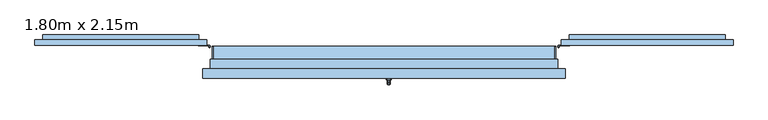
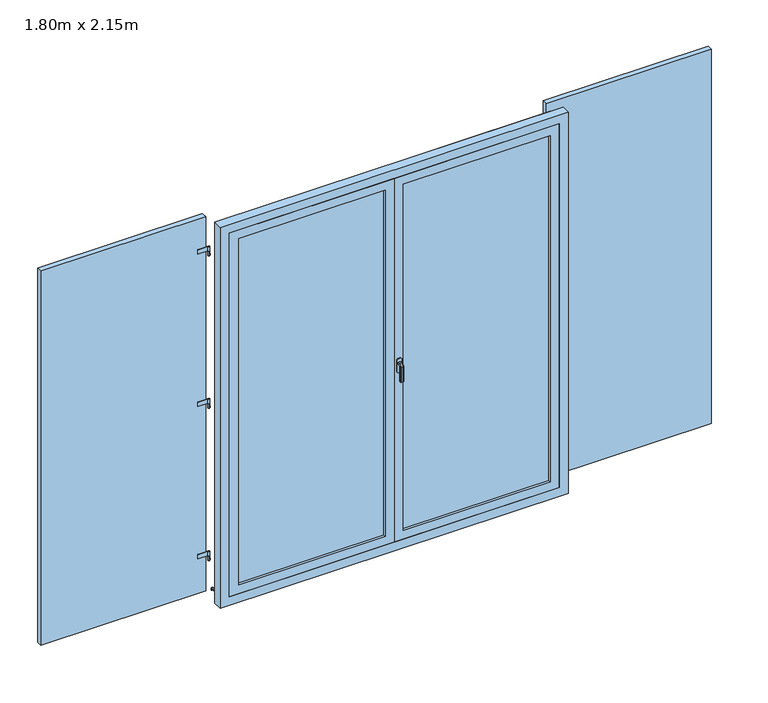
"""IFC4 building model written with IfcOpenShell, lengths in millimetres: window geometry, PF 2 Vantaux droits - Volets et petits bois : 1.80m x 2.15m."""

import ifcopenshell
import ifcopenshell.guid

model = None  # the IFC model being written
_history = None  # IfcOwnerHistory: only IFC2X3 demands one
_inside = {}  # id of a spatial element -> (the spatial element, [elements in it])
_under = {}  # id of a project, library or spatial element -> (it, [spatial elements below it])
_declared = {}  # id of a project -> (the project, [libraries it declares])
_typed = {}  # id of a type object -> (the type object, [elements of that type])
_made_of = {}  # id of a material, layer set ... -> (it, [elements and type objects made of it])


def new_model(schema):
    """Start an empty IFC model of exactly this schema.

    Asked for "IFC4X3", IfcOpenShell would pick the latest addendum, in which some entities
    have other attributes; the version numbers below select the first issue.
    IFC2X3 requires an IfcOwnerHistory on every rooted entity: one is made here for all.
    """
    global model, _history
    if schema == "IFC4X3":
        model = ifcopenshell.file(schema_version=(4, 3, 0, 0))
    else:
        model = ifcopenshell.file(schema=schema)
    _inside.clear()
    _under.clear()
    _declared.clear()
    _typed.clear()
    _made_of.clear()
    _history = None
    if model.schema == "IFC2X3":
        org = make("IfcOrganization", Name="unknown")
        user = make(
            "IfcPersonAndOrganization",
            ThePerson=make("IfcPerson", FamilyName="unknown"),
            TheOrganization=org,
        )
        app = make(
            "IfcApplication",
            ApplicationDeveloper=org,
            Version="unknown",
            ApplicationFullName="unknown",
            ApplicationIdentifier="unknown",
        )
        _history = make(
            "IfcOwnerHistory",
            OwningUser=user,
            OwningApplication=app,
            ChangeAction="ADDED",
            CreationDate=0,
        )
    return model


def make(cls, **values):
    """One entity of the class cls with the attributes given. An attribute that is None is left unset."""
    return model.create_entity(
        cls, **{name: value for name, value in values.items() if value is not None}
    )


def rooted(cls, **values):
    """An entity with a GlobalId (a new one), such as an element, a storey or a relation."""
    return make(cls, GlobalId=ifcopenshell.guid.new(), OwnerHistory=_history, **values)


def si_unit(unit_type, name, prefix=None):
    """IfcSIUnit, for example si_unit("LENGTHUNIT", "METRE", prefix="MILLI")."""
    return make("IfcSIUnit", UnitType=unit_type, Prefix=prefix, Name=name)


def assignment(units):
    """IfcUnitAssignment: the units of a project."""
    return None if units is None else make("IfcUnitAssignment", Units=units)


def point(xyz):
    """IfcCartesianPoint."""
    return None if xyz is None else make("IfcCartesianPoint", Coordinates=xyz)


def direction(xyz):
    """IfcDirection."""
    return None if xyz is None else make("IfcDirection", DirectionRatios=xyz)


def frame(location, z_axis=None, x_axis=None):
    """IfcAxis2Placement3D, a coordinate frame: its origin and axes. An axis left out is left unset."""
    return make(
        "IfcAxis2Placement3D",
        Location=point(location),
        Axis=direction(z_axis),
        RefDirection=direction(x_axis),
    )


def frame_2d(location, x_axis=None):
    """IfcAxis2Placement2D, a coordinate frame in the plane: its origin and x axis."""
    return make(
        "IfcAxis2Placement2D", Location=point(location), RefDirection=direction(x_axis)
    )


def origin():
    """The frame at (0, 0, 0) with its axes left unset."""
    return frame((0.0, 0.0, 0.0))


def place(relative_to, where):
    """IfcLocalPlacement: puts the frame where relative to a parent placement (None: the world)."""
    return make(
        "IfcLocalPlacement", PlacementRelTo=relative_to, RelativePlacement=where
    )


def context(
    kind, dimensions, precision=None, world=None, true_north=None, identifier=None
):
    """IfcGeometricRepresentationContext, for example the 3D "Model" context."""
    return make(
        "IfcGeometricRepresentationContext",
        ContextIdentifier=identifier,
        ContextType=kind,
        CoordinateSpaceDimension=dimensions,
        Precision=precision,
        WorldCoordinateSystem=world,
        TrueNorth=true_north,
    )


def project(units=None, contexts=None):
    """IfcProject with its units and contexts."""
    return rooted(
        "IfcProject",
        Name="project",
        RepresentationContexts=contexts,
        UnitsInContext=assignment(units),
    )


def spatial(cls, under=None, at=None, **own):
    """A site, building, storey or space (cls), placed at a placement, below another one or the project."""
    s = rooted(cls, ObjectPlacement=at, **own)
    if under is not None:
        _under.setdefault(under.id(), (under, []))[1].append(s)
    return s


def polyline(points):
    """IfcPolyline through the points."""
    return make("IfcPolyline", Points=[point(p) for p in points])


def circle_curve(where, radius):
    """IfcCircle in the frame where."""
    return make("IfcCircle", Position=where, Radius=radius)


def trimmed(basis, trim1, trim2, sense, master):
    """IfcTrimmedCurve: the piece of a basis curve between two trims."""
    return make(
        "IfcTrimmedCurve",
        BasisCurve=basis,
        Trim1=trim1,
        Trim2=trim2,
        SenseAgreement=sense,
        MasterRepresentation=master,
    )


def segment(curve, same_sense, transition):
    """IfcCompositeCurveSegment."""
    return make(
        "IfcCompositeCurveSegment",
        Transition=transition,
        SameSense=same_sense,
        ParentCurve=curve,
    )


def composite_curve(segments, self_intersect=None):
    """IfcCompositeCurve: segments joined end to end."""
    return make("IfcCompositeCurve", Segments=segments, SelfIntersect=self_intersect)


def outline(outer, holes=None, kind="AREA"):
    """IfcArbitraryClosedProfileDef: a profile drawn as a closed curve; with holes, ...WithVoids."""
    if holes is None:
        return make("IfcArbitraryClosedProfileDef", ProfileType=kind, OuterCurve=outer)
    return make(
        "IfcArbitraryProfileDefWithVoids",
        ProfileType=kind,
        OuterCurve=outer,
        InnerCurves=holes,
    )


def extrude(swept, where, along, depth):
    """IfcExtrudedAreaSolid: the profile swept, set in the frame where, extruded along a direction by depth."""
    return make(
        "IfcExtrudedAreaSolid",
        SweptArea=swept,
        Position=where,
        ExtrudedDirection=direction(along),
        Depth=depth,
    )


def faces_of(points, faces, orient=None, outer=None):
    """IfcFace entities. A face is a list of loops; a loop is a list of indices into points, from 0.

    orient and outer hold one flag for each loop. By default every Orientation is true, the
    first loop of a face is its IfcFaceOuterBound and the others are IfcFaceBound.
    """
    made = []
    for i, loops in enumerate(faces):
        bounds = []
        for j, loop in enumerate(loops):
            is_outer = j == 0 if outer is None else outer[i][j]
            bounds.append(
                make(
                    "IfcFaceOuterBound" if is_outer else "IfcFaceBound",
                    Bound=make("IfcPolyLoop", Polygon=[points[k] for k in loop]),
                    Orientation=True if orient is None else orient[i][j],
                )
            )
        made.append(make("IfcFace", Bounds=bounds))
    return made


def faceted_brep(points, faces, orient=None, outer=None, voids=None):
    """IfcFacetedBrep: a solid bounded by flat faces; with voids (closed shells), ...WithVoids."""
    shared = [point(p) for p in points]
    hull = make("IfcClosedShell", CfsFaces=faces_of(shared, faces, orient, outer))
    if voids is None:
        return make("IfcFacetedBrep", Outer=hull)
    return make(
        "IfcFacetedBrepWithVoids",
        Outer=hull,
        Voids=[
            make(cls, CfsFaces=faces_of(shared, fs, o, b)) for cls, fs, o, b in voids
        ],
    )


def shape(context_of_items, identifier, shape_type, items):
    """IfcShapeRepresentation: the items that make up one representation, for example the "Body"."""
    return make(
        "IfcShapeRepresentation",
        ContextOfItems=context_of_items,
        RepresentationIdentifier=identifier,
        RepresentationType=shape_type,
        Items=items,
    )


def source(mapping_origin, context_of_items, identifier, shape_type, items):
    """IfcRepresentationMap: a shape defined once, which mapped items show again and again."""
    return make(
        "IfcRepresentationMap",
        MappingOrigin=mapping_origin,
        MappedRepresentation=shape(context_of_items, identifier, shape_type, items),
    )


def transform(
    local_origin,
    x_axis=None,
    y_axis=None,
    z_axis=None,
    scale=None,
    scale2=None,
    scale3=None,
    uniform=True,
):
    """IfcCartesianTransformationOperator3D, or its non-uniform kind. x_axis, y_axis, z_axis: its Axis1, 2, 3."""
    if uniform:
        return make(
            "IfcCartesianTransformationOperator3D",
            Axis1=direction(x_axis),
            Axis2=direction(y_axis),
            LocalOrigin=point(local_origin),
            Scale=scale,
            Axis3=direction(z_axis),
        )
    return make(
        "IfcCartesianTransformationOperator3DnonUniform",
        Axis1=direction(x_axis),
        Axis2=direction(y_axis),
        LocalOrigin=point(local_origin),
        Scale=scale,
        Axis3=direction(z_axis),
        Scale2=scale2,
        Scale3=scale3,
    )


def mapped(mapping_source, mapping_target):
    """IfcMappedItem: shows the shape of a source again, moved by a transform."""
    return make(
        "IfcMappedItem", MappingSource=mapping_source, MappingTarget=mapping_target
    )


def made_of(thing, what):
    """Note that an element or type object is made of a material, layer set ...; save() writes the relation."""
    if what is not None:
        _made_of.setdefault(what.id(), (what, []))[1].append(thing)
    return thing


def element(
    cls,
    number,
    at=None,
    inside=None,
    cuts=None,
    type_object=None,
    material=None,
    context=None,
    identifier="Body",
    shape_type=None,
    held_by="IfcProductDefinitionShape",
    body=None,
    shapes=None,
    **own,
):
    """One element of the class cls, such as IfcWall. Its Tag is "e" and its number.

    at: its placement. inside: the storey or other place that contains it. cuts: it is an
    opening in that element (IfcRelVoidsElement). A single representation is given by context,
    identifier, shape_type and body (its items); several are given by shapes. held_by: the class
    of the entity that holds the representations. save() writes the other relations.
    """
    e = rooted(cls, Tag="e%d" % number, ObjectPlacement=at, **own)
    if body is not None:
        shapes = [shape(context, identifier, shape_type, body)]
    if shapes is not None:
        e.Representation = make(held_by, Representations=shapes)
    if inside is not None:
        _inside.setdefault(inside.id(), (inside, []))[1].append(e)
    if cuts is not None:
        rooted(
            "IfcRelVoidsElement", RelatingBuildingElement=cuts, RelatedOpeningElement=e
        )
    if type_object is not None:
        _typed.setdefault(type_object.id(), (type_object, []))[1].append(e)
    return made_of(e, material)


def aggregate(whole, parts):
    """IfcRelAggregates: a whole, such as a stair, and the parts it consists of."""
    return rooted("IfcRelAggregates", RelatingObject=whole, RelatedObjects=parts)


def save(model, path):
    """Write the relations noted so far, then the file.

    IfcRelAggregates (storeys below a building ...), IfcRelContainedInSpatialStructure (elements
    in a storey), IfcRelDefinesByType, IfcRelAssociatesMaterial and IfcRelDeclares: one each for
    every whole, place, type object, material and project.
    """
    for whole, parts in _under.values():
        aggregate(whole, parts)
    for where, things in _inside.values():
        rooted(
            "IfcRelContainedInSpatialStructure",
            RelatedElements=things,
            RelatingStructure=where,
        )
    for kind, things in _typed.values():
        rooted("IfcRelDefinesByType", RelatedObjects=things, RelatingType=kind)
    for what, things in _made_of.values():
        rooted("IfcRelAssociatesMaterial", RelatedObjects=things, RelatingMaterial=what)
    for by, libraries in _declared.values():
        rooted("IfcRelDeclares", RelatingContext=by, RelatedDefinitions=libraries)
    model.write(path)


def plane_surface(at):
    """IfcPlane: the flat surface through the origin of the frame at, square to its z axis."""
    return make("IfcPlane", Position=at)


def cylinder_surface(at, radius):
    """IfcCylindricalSurface: all points at the distance radius from the z axis of the frame at."""
    return make("IfcCylindricalSurface", Position=at, Radius=radius)


def advanced_brep(points, edges, surfaces, faces):
    """IfcAdvancedBrep: a solid bounded by faces that lie on surfaces and meet in shared edges.

    An edge is (start, end): straight between two places in points (the first is 0);
    or (start, end, curve); or (start, end, curve, False) where it runs against its curve.
    A face is (place in surfaces, loops), or (place, loops, False) where it looks against
    its surface's normal. A loop lists edges by number (the first is 1), with a minus sign
    where the edge is run from its end to its start. The first loop is the outer one.
    """
    corners = [point(p) for p in points]
    vertices = [make("IfcVertexPoint", VertexGeometry=c) for c in corners]
    made = []
    for start, end, *more in edges:
        made.append(
            make(
                "IfcEdgeCurve",
                EdgeStart=vertices[start],
                EdgeEnd=vertices[end],
                EdgeGeometry=more[0] if more else make("IfcPolyline", Points=[corners[start], corners[end]]),
                SameSense=more[1] if len(more) > 1 else True,
            )
        )
    hull = []
    for where, loops, *sense in faces:
        bounds = []
        for j, loop in enumerate(loops):
            ring = [make("IfcOrientedEdge", EdgeElement=made[abs(k) - 1], Orientation=k > 0) for k in loop]
            bounds.append(
                make(
                    "IfcFaceOuterBound" if j == 0 else "IfcFaceBound",
                    Bound=make("IfcEdgeLoop", EdgeList=ring),
                    Orientation=True,
                )
            )
        hull.append(make("IfcAdvancedFace", Bounds=bounds, FaceSurface=surfaces[where], SameSense=sense[0] if sense else True))
    return make("IfcAdvancedBrep", Outer=make("IfcClosedShell", CfsFaces=hull))


def window_1_80m_x_2_15m_c17098d0(model_context):
    return source(origin(), model_context, "Body", "SolidModel", [
        extrude(outline(polyline([(-1830.0, 93.0), (-1830.0, 123.0), (-930.0, 123.0), (-930.0, 93.0), (-1830.0, 93.0)])), frame((0.0, 0.0, 25.0), z_axis=(0.0, 0.0, 1.0), x_axis=(1.0, 0.0, 0.0)), (0.0, 0.0, 1.0), 2160.0),
        advanced_brep(
        [(-910.0, 88.0, 225.0), (-920.0, 88.0, 225.0), (-910.0, 88.0, 200.0), (-920.0, 88.0, 200.0), (-917.0, 83.4174243, 205.0), (-917.0, 83.4174243, 215.0), (-913.0, 83.4174243, 215.0), (-913.0, 83.4174243, 205.0), (-913.0, 80.0, 215.0), (-917.0, 80.0, 215.0), (-917.0, 80.0, 205.0), (-913.0, 80.0, 205.0)],
        [
            (0, 1, circle_curve(frame((-915.0, 88.0, 225.0), z_axis=(0.0, 0.0, 1.0), x_axis=(-1.0, 0.0, 0.0)), 5.0)),
            (1, 0, circle_curve(frame((-915.0, 88.0, 225.0), z_axis=(0.0, 0.0, 1.0), x_axis=(-1.0, 0.0, 0.0)), 5.0)),
            (2, 3, circle_curve(frame((-915.0, 88.0, 200.0), z_axis=(0.0, 0.0, -1.0), x_axis=(-1.0, 0.0, 0.0)), 5.0)),
            (3, 2, circle_curve(frame((-915.0, 88.0, 200.0), z_axis=(0.0, 0.0, -1.0), x_axis=(-1.0, 0.0, 0.0)), 5.0)),
            (1, 3),
            (2, 0),
            (4, 5),
            (5, 6, circle_curve(frame((-915.0, 88.0, 215.0), z_axis=(0.0, 0.0, 1.0), x_axis=(-1.0, 0.0, 0.0)), 5.0)),
            (6, 7),
            (7, 4, circle_curve(frame((-915.0, 88.0, 205.0), z_axis=(0.0, 0.0, -1.0), x_axis=(-1.0, 0.0, 0.0)), 5.0)),
            (8, 6),
            (5, 9),
            (9, 8),
            (10, 4),
            (7, 11),
            (11, 10),
            (10, 9),
            (8, 11),
        ],
        [
            plane_surface(frame((-920.0, 88.0, 225.0), z_axis=(0.0, 0.0, 1.0), x_axis=(0.0, 1.0, 0.0))),
            plane_surface(frame((-920.0, 88.0, 200.0), z_axis=(0.0, 0.0, -1.0), x_axis=(0.0, -1.0, 0.0))),
            cylinder_surface(frame((-915.0, 88.0, 200.0), z_axis=(0.0, 0.0, 1.0), x_axis=(-1.0, 0.0, 0.0)), 5.0),
            plane_surface(frame((-917.0, 80.0, 215.0), z_axis=(0.0, 0.0, 1.0), x_axis=(0.0, 1.0, 0.0))),
            plane_surface(frame((-917.0, 80.0, 205.0), z_axis=(0.0, 0.0, -1.0), x_axis=(0.0, -1.0, 0.0))),
            plane_surface(frame((-917.0, 80.0, 215.0), z_axis=(-1.0, 0.0, 0.0), x_axis=(0.0, 0.0, -1.0))),
            plane_surface(frame((-913.0, 85.0, 215.0), z_axis=(1.0, 0.0, 0.0), x_axis=(0.0, 0.0, -1.0))),
            plane_surface(frame((-913.0, 80.0, 215.0), z_axis=(0.0, -1.0, 0.0), x_axis=(0.0, 0.0, -1.0))),
        ],
        [
            (0, [[1, 2]]),
            (1, [[3, 4]]),
            (2, [[5, -3, 6, -2], [7, 8, 9, 10]]),
            (2, [[-6, -4, -5, -1]]),
            (3, [[11, -8, 12, 13]]),
            (4, [[14, -10, 15, 16]]),
            (5, [[-12, -7, -14, 17]]),
            (6, [[-15, -9, -11, 18]]),
            (7, [[-17, -16, -18, -13]]),
        ],
    ),
        extrude(outline(composite_curve([segment(trimmed(circle_curve(frame_2d((-915.0, 88.0)), 5.0), [point((-915.0, 93.0))], [point((-920.0, 88.0))], False, "CARTESIAN"), True, "CONTINUOUS"), segment(polyline([(-920.0, 88.0), (-917.5, 88.0)]), True, "CONTINUOUS"), segment(trimmed(circle_curve(frame_2d((-915.0, 88.0)), 2.5), [point((-917.5, 88.0))], [point((-915.0, 90.5))], True, "CARTESIAN"), True, "CONTINUOUS"), segment(polyline([(-915.0, 90.5), (-974.3092325, 90.5), (-974.3092325, 93.0), (-915.0, 93.0)]), True, "CONTINUOUS")], self_intersect=False)), frame((0.0, 0.0, 225.0), z_axis=(0.0, 0.0, 1.0), x_axis=(1.0, 0.0, 0.0)), (0.0, 0.0, 1.0), 25.0),
        extrude(outline(composite_curve([segment(trimmed(circle_curve(frame_2d((-915.0, 88.0)), 2.5), [point((-912.5, 88.0))], [point((-917.5, 88.0))], False, "CARTESIAN"), True, "CONTINUOUS"), segment(trimmed(circle_curve(frame_2d((-915.0, 88.0)), 2.5), [point((-917.5, 88.0))], [point((-912.5, 88.0))], False, "CARTESIAN"), True, "CONTINUOUS")], self_intersect=False)), frame((0.0, 0.0, 225.0), z_axis=(0.0, 0.0, 1.0), x_axis=(1.0, 0.0, 0.0)), (0.0, 0.0, 1.0), 25.0),
        advanced_brep(
        [(-910.0, 88.0, 1985.0), (-920.0, 88.0, 1985.0), (-910.0, 88.0, 1960.0), (-920.0, 88.0, 1960.0), (-913.0, 83.4174243, 1975.0), (-913.0, 83.4174243, 1965.0), (-917.0, 83.4174243, 1965.0), (-917.0, 83.4174243, 1975.0), (-913.0, 80.0, 1975.0), (-917.0, 80.0, 1975.0), (-913.0, 80.0, 1965.0), (-917.0, 80.0, 1965.0)],
        [
            (0, 1, circle_curve(frame((-915.0, 88.0, 1985.0), z_axis=(0.0, 0.0, 1.0), x_axis=(-1.0, 0.0, 0.0)), 5.0)),
            (1, 0, circle_curve(frame((-915.0, 88.0, 1985.0), z_axis=(0.0, 0.0, 1.0), x_axis=(-1.0, 0.0, 0.0)), 5.0)),
            (2, 3, circle_curve(frame((-915.0, 88.0, 1960.0), z_axis=(0.0, 0.0, -1.0), x_axis=(-1.0, 0.0, 0.0)), 5.0)),
            (3, 2, circle_curve(frame((-915.0, 88.0, 1960.0), z_axis=(0.0, 0.0, -1.0), x_axis=(-1.0, 0.0, 0.0)), 5.0)),
            (1, 3),
            (2, 0),
            (4, 5),
            (5, 6, circle_curve(frame((-915.0, 88.0, 1965.0), z_axis=(0.0, 0.0, -1.0), x_axis=(-1.0, 0.0, 0.0)), 5.0)),
            (6, 7),
            (7, 4, circle_curve(frame((-915.0, 88.0, 1975.0), z_axis=(0.0, 0.0, 1.0), x_axis=(-1.0, 0.0, 0.0)), 5.0)),
            (8, 4),
            (7, 9),
            (9, 8),
            (10, 11),
            (11, 6),
            (5, 10),
            (9, 11),
            (10, 8),
        ],
        [
            plane_surface(frame((-920.0, 88.0, 1985.0), z_axis=(0.0, 0.0, 1.0), x_axis=(0.0, 1.0, 0.0))),
            plane_surface(frame((-920.0, 88.0, 1960.0), z_axis=(0.0, 0.0, -1.0), x_axis=(0.0, -1.0, 0.0))),
            cylinder_surface(frame((-915.0, 88.0, 1960.0), z_axis=(0.0, 0.0, 1.0), x_axis=(-1.0, 0.0, 0.0)), 5.0),
            plane_surface(frame((-913.0, 80.0, 1975.0), z_axis=(0.0, 0.0, 1.0), x_axis=(-1.0, 0.0, 0.0))),
            plane_surface(frame((-913.0, 80.0, 1965.0), z_axis=(0.0, 0.0, -1.0), x_axis=(1.0, 0.0, 0.0))),
            plane_surface(frame((-913.0, 80.0, 1975.0), z_axis=(0.0, -1.0, 0.0), x_axis=(0.0, 0.0, -1.0))),
            plane_surface(frame((-917.0, 80.0, 1975.0), z_axis=(-1.0, 0.0, 0.0), x_axis=(0.0, 0.0, -1.0))),
            plane_surface(frame((-913.0, 83.4174243, 1975.0), z_axis=(1.0, 0.0, 0.0), x_axis=(0.0, 0.0, -1.0))),
        ],
        [
            (0, [[1, 2]]),
            (1, [[3, 4]]),
            (2, [[5, -3, 6, -2], [7, 8, 9, 10]]),
            (2, [[-6, -4, -5, -1]]),
            (3, [[11, -10, 12, 13]]),
            (4, [[14, 15, -8, 16]]),
            (5, [[17, -14, 18, -13]]),
            (6, [[-9, -15, -17, -12]]),
            (7, [[-18, -16, -7, -11]]),
        ],
    ),
        extrude(outline(polyline([(-913.0, 80.0), (-917.0, 80.0), (-917.0, 83.4174243), (-913.0, 83.4174243), (-913.0, 80.0)])), frame((0.0, 0.0, 1085.0), z_axis=(0.0, 0.0, 1.0), x_axis=(1.0, 0.0, 0.0)), (0.0, 0.0, 1.0), 10.0),
        extrude(outline(composite_curve([segment(trimmed(circle_curve(frame_2d((-915.0, 88.0)), 5.0), [point((-915.0, 93.0))], [point((-920.0, 88.0))], False, "CARTESIAN"), True, "CONTINUOUS"), segment(polyline([(-920.0, 88.0), (-917.5, 88.0)]), True, "CONTINUOUS"), segment(trimmed(circle_curve(frame_2d((-915.0, 88.0)), 2.5), [point((-917.5, 88.0))], [point((-912.5, 88.0))], True, "CARTESIAN"), True, "CONTINUOUS"), segment(trimmed(circle_curve(frame_2d((-915.0, 88.0)), 2.5), [point((-912.5, 88.0))], [point((-915.0, 90.5))], True, "CARTESIAN"), True, "CONTINUOUS"), segment(polyline([(-915.0, 90.5), (-974.3092325, 90.5), (-974.3092325, 93.0), (-915.0, 93.0)]), True, "CONTINUOUS")], self_intersect=False)), frame((0.0, 0.0, 1105.0), z_axis=(0.0, 0.0, 1.0), x_axis=(1.0, 0.0, 0.0)), (0.0, 0.0, 1.0), 25.0),
        extrude(outline(composite_curve([segment(trimmed(circle_curve(frame_2d((-915.0, 88.0)), 2.5), [point((-912.5, 88.0))], [point((-917.5, 88.0))], False, "CARTESIAN"), True, "CONTINUOUS"), segment(trimmed(circle_curve(frame_2d((-915.0, 88.0)), 2.5), [point((-917.5, 88.0))], [point((-912.5, 88.0))], False, "CARTESIAN"), True, "CONTINUOUS")], self_intersect=False)), frame((0.0, 0.0, 1105.0), z_axis=(0.0, 0.0, 1.0), x_axis=(1.0, 0.0, 0.0)), (0.0, 0.0, 1.0), 25.0),
        extrude(outline(composite_curve([segment(trimmed(circle_curve(frame_2d((-915.0, 88.0)), 5.0), [point((-910.0, 88.0))], [point((-920.0, 88.0))], False, "CARTESIAN"), True, "CONTINUOUS"), segment(trimmed(circle_curve(frame_2d((-915.0, 88.0)), 5.0), [point((-920.0, 88.0))], [point((-910.0, 88.0))], False, "CARTESIAN"), True, "CONTINUOUS")], self_intersect=False)), frame((0.0, 0.0, 1080.0), z_axis=(0.0, 0.0, 1.0), x_axis=(1.0, 0.0, 0.0)), (0.0, 0.0, 1.0), 25.0),
        extrude(outline(composite_curve([segment(trimmed(circle_curve(frame_2d((-915.0, 88.0)), 5.0), [point((-915.0, 93.0))], [point((-920.0, 88.0))], False, "CARTESIAN"), True, "CONTINUOUS"), segment(polyline([(-920.0, 88.0), (-917.5, 88.0)]), True, "CONTINUOUS"), segment(trimmed(circle_curve(frame_2d((-915.0, 88.0)), 2.5), [point((-917.5, 88.0))], [point((-915.0, 90.5))], True, "CARTESIAN"), True, "CONTINUOUS"), segment(polyline([(-915.0, 90.5), (-974.3092325, 90.5), (-974.3092325, 93.0), (-915.0, 93.0)]), True, "CONTINUOUS")], self_intersect=False)), frame((0.0, 0.0, 1985.0), z_axis=(0.0, 0.0, 1.0), x_axis=(1.0, 0.0, 0.0)), (0.0, 0.0, 1.0), 25.0),
        extrude(outline(composite_curve([segment(trimmed(circle_curve(frame_2d((-915.0, 88.0)), 2.5), [point((-912.5, 88.0))], [point((-917.5, 88.0))], False, "CARTESIAN"), True, "CONTINUOUS"), segment(trimmed(circle_curve(frame_2d((-915.0, 88.0)), 2.5), [point((-917.5, 88.0))], [point((-912.5, 88.0))], False, "CARTESIAN"), True, "CONTINUOUS")], self_intersect=False)), frame((0.0, 0.0, 1985.0), z_axis=(0.0, 0.0, 1.0), x_axis=(1.0, 0.0, 0.0)), (0.0, 0.0, 1.0), 25.0),
        extrude(outline(polyline([(1945.0, -1682.8481242), (1945.0, -1790.0), (1145.0, -1077.1518758), (1145.0, -970.0), (1945.0, -1682.8481242)])), frame((0.0, 123.0, 0.0), z_axis=(0.0, 1.0, 0.0), x_axis=(0.0, 0.0, 1.0)), (0.0, 0.0, 1.0), 25.0),
        extrude(outline(polyline([(265.0, -1077.152601), (265.0, -970.0007252), (1065.0, -1682.8488494), (1065.0, -1790.0007252), (265.0, -1077.152601)])), frame((0.0, 123.0, 0.0), z_axis=(0.0, 1.0, 0.0), x_axis=(0.0, 0.0, 1.0)), (0.0, 0.0, 1.0), 25.0),
        extrude(outline(polyline([(-970.0, 148.0), (-970.0, 123.0), (-1790.0, 123.0), (-1790.0, 148.0), (-970.0, 148.0)])), frame((0.0, 0.0, 1945.0), z_axis=(0.0, 0.0, 1.0), x_axis=(1.0, 0.0, 0.0)), (0.0, 0.0, 1.0), 80.0),
        extrude(outline(polyline([(-970.0, 148.0), (-970.0, 123.0), (-1790.0, 123.0), (-1790.0, 148.0), (-970.0, 148.0)])), frame((0.0, 0.0, 185.0), z_axis=(0.0, 0.0, 1.0), x_axis=(1.0, 0.0, 0.0)), (0.0, 0.0, 1.0), 80.0),
        extrude(outline(polyline([(-970.0, 148.0), (-970.0, 123.0), (-1790.0, 123.0), (-1790.0, 148.0), (-970.0, 148.0)])), frame((0.0, 0.0, 1065.0), z_axis=(0.0, 0.0, 1.0), x_axis=(1.0, 0.0, 0.0)), (0.0, 0.0, 1.0), 80.0),
        extrude(outline(polyline([(1830.0, 93.0), (930.0, 93.0), (930.0, 123.0), (1830.0, 123.0), (1830.0, 93.0)])), frame((0.0, 0.0, 25.0), z_axis=(0.0, 0.0, 1.0), x_axis=(1.0, 0.0, 0.0)), (0.0, 0.0, 1.0), 2160.0),
        advanced_brep(
        [(910.0, 88.0, 225.0), (920.0, 88.0, 225.0), (910.0, 88.0, 200.0), (920.0, 88.0, 200.0), (917.0, 83.4174243, 205.0), (913.0, 83.4174243, 205.0), (913.0, 83.4174243, 215.0), (917.0, 83.4174243, 215.0), (913.0, 80.0, 215.0), (917.0, 80.0, 215.0), (917.0, 80.0, 205.0), (913.0, 80.0, 205.0)],
        [
            (0, 1, circle_curve(frame((915.0, 88.0, 225.0), z_axis=(0.0, 0.0, 1.0), x_axis=(1.0, 0.0, 0.0)), 5.0)),
            (1, 0, circle_curve(frame((915.0, 88.0, 225.0), z_axis=(0.0, 0.0, 1.0), x_axis=(1.0, 0.0, 0.0)), 5.0)),
            (2, 3, circle_curve(frame((915.0, 88.0, 200.0), z_axis=(0.0, 0.0, -1.0), x_axis=(1.0, 0.0, 0.0)), 5.0)),
            (3, 2, circle_curve(frame((915.0, 88.0, 200.0), z_axis=(0.0, 0.0, -1.0), x_axis=(1.0, 0.0, 0.0)), 5.0)),
            (0, 2),
            (3, 1),
            (4, 5, circle_curve(frame((915.0, 88.0, 205.0), z_axis=(0.0, 0.0, -1.0), x_axis=(1.0, 0.0, 0.0)), 5.0)),
            (5, 6),
            (6, 7, circle_curve(frame((915.0, 88.0, 215.0), z_axis=(0.0, 0.0, 1.0), x_axis=(1.0, 0.0, 0.0)), 5.0)),
            (7, 4),
            (8, 9),
            (9, 7),
            (6, 8),
            (10, 11),
            (11, 5),
            (4, 10),
            (9, 10),
            (11, 8),
        ],
        [
            plane_surface(frame((920.0, 88.0, 225.0), z_axis=(0.0, 0.0, 1.0), x_axis=(0.0, 1.0, 0.0))),
            plane_surface(frame((920.0, 88.0, 200.0), z_axis=(0.0, 0.0, -1.0), x_axis=(0.0, -1.0, 0.0))),
            cylinder_surface(frame((915.0, 88.0, 200.0), z_axis=(0.0, 0.0, 1.0), x_axis=(1.0, 0.0, 0.0)), 5.0),
            plane_surface(frame((917.0, 80.0, 215.0), z_axis=(0.0, 0.0, 1.0), x_axis=(0.0, 1.0, 0.0))),
            plane_surface(frame((917.0, 80.0, 205.0), z_axis=(0.0, 0.0, -1.0), x_axis=(0.0, -1.0, 0.0))),
            plane_surface(frame((917.0, 80.0, 215.0), z_axis=(1.0, 0.0, 0.0), x_axis=(0.0, 0.0, -1.0))),
            plane_surface(frame((913.0, 85.0, 215.0), z_axis=(-1.0, 0.0, 0.0), x_axis=(0.0, 0.0, -1.0))),
            plane_surface(frame((913.0, 80.0, 215.0), z_axis=(0.0, -1.0, 0.0), x_axis=(0.0, 0.0, -1.0))),
        ],
        [
            (0, [[1, 2]]),
            (1, [[3, 4]]),
            (2, [[-1, 5, -4, 6], [7, 8, 9, 10]]),
            (2, [[-2, -6, -3, -5]]),
            (3, [[11, 12, -9, 13]]),
            (4, [[14, 15, -7, 16]]),
            (5, [[17, -16, -10, -12]]),
            (6, [[18, -13, -8, -15]]),
            (7, [[-11, -18, -14, -17]]),
        ],
    ),
        extrude(outline(composite_curve([segment(polyline([(915.0, 93.0), (974.3092325, 93.0), (974.3092325, 90.5), (915.0, 90.5)]), True, "CONTINUOUS"), segment(trimmed(circle_curve(frame_2d((915.0, 88.0)), 2.5), [point((915.0, 90.5))], [point((917.5, 88.0))], True, "CARTESIAN"), True, "CONTINUOUS"), segment(polyline([(917.5, 88.0), (920.0, 88.0)]), True, "CONTINUOUS"), segment(trimmed(circle_curve(frame_2d((915.0, 88.0)), 5.0), [point((920.0, 88.0))], [point((915.0, 93.0))], False, "CARTESIAN"), True, "CONTINUOUS")], self_intersect=False)), frame((0.0, 0.0, 225.0), z_axis=(0.0, 0.0, 1.0), x_axis=(1.0, 0.0, 0.0)), (0.0, 0.0, 1.0), 25.0),
        extrude(outline(composite_curve([segment(trimmed(circle_curve(frame_2d((915.0, 88.0)), 2.5), [point((912.5, 88.0))], [point((917.5, 88.0))], False, "CARTESIAN"), True, "CONTINUOUS"), segment(trimmed(circle_curve(frame_2d((915.0, 88.0)), 2.5), [point((917.5, 88.0))], [point((912.5, 88.0))], False, "CARTESIAN"), True, "CONTINUOUS")], self_intersect=False)), frame((0.0, 0.0, 225.0), z_axis=(0.0, 0.0, 1.0), x_axis=(1.0, 0.0, 0.0)), (0.0, 0.0, 1.0), 25.0),
        advanced_brep(
        [(910.0, 88.0, 1985.0), (920.0, 88.0, 1985.0), (910.0, 88.0, 1960.0), (920.0, 88.0, 1960.0), (913.0, 83.4174243, 1975.0), (917.0, 83.4174243, 1975.0), (917.0, 83.4174243, 1965.0), (913.0, 83.4174243, 1965.0), (913.0, 80.0, 1975.0), (917.0, 80.0, 1975.0), (913.0, 80.0, 1965.0), (917.0, 80.0, 1965.0)],
        [
            (0, 1, circle_curve(frame((915.0, 88.0, 1985.0), z_axis=(0.0, 0.0, 1.0), x_axis=(1.0, 0.0, 0.0)), 5.0)),
            (1, 0, circle_curve(frame((915.0, 88.0, 1985.0), z_axis=(0.0, 0.0, 1.0), x_axis=(1.0, 0.0, 0.0)), 5.0)),
            (2, 3, circle_curve(frame((915.0, 88.0, 1960.0), z_axis=(0.0, 0.0, -1.0), x_axis=(1.0, 0.0, 0.0)), 5.0)),
            (3, 2, circle_curve(frame((915.0, 88.0, 1960.0), z_axis=(0.0, 0.0, -1.0), x_axis=(1.0, 0.0, 0.0)), 5.0)),
            (0, 2),
            (3, 1),
            (4, 5, circle_curve(frame((915.0, 88.0, 1975.0), z_axis=(0.0, 0.0, 1.0), x_axis=(1.0, 0.0, 0.0)), 5.0)),
            (5, 6),
            (6, 7, circle_curve(frame((915.0, 88.0, 1965.0), z_axis=(0.0, 0.0, -1.0), x_axis=(1.0, 0.0, 0.0)), 5.0)),
            (7, 4),
            (8, 9),
            (9, 5),
            (4, 8),
            (10, 7),
            (6, 11),
            (11, 10),
            (8, 10),
            (11, 9),
        ],
        [
            plane_surface(frame((920.0, 88.0, 1985.0), z_axis=(0.0, 0.0, 1.0), x_axis=(0.0, 1.0, 0.0))),
            plane_surface(frame((920.0, 88.0, 1960.0), z_axis=(0.0, 0.0, -1.0), x_axis=(0.0, -1.0, 0.0))),
            cylinder_surface(frame((915.0, 88.0, 1960.0), z_axis=(0.0, 0.0, 1.0), x_axis=(1.0, 0.0, 0.0)), 5.0),
            plane_surface(frame((913.0, 80.0, 1975.0), z_axis=(0.0, 0.0, 1.0), x_axis=(1.0, 0.0, 0.0))),
            plane_surface(frame((913.0, 80.0, 1965.0), z_axis=(0.0, 0.0, -1.0), x_axis=(-1.0, 0.0, 0.0))),
            plane_surface(frame((913.0, 80.0, 1975.0), z_axis=(0.0, -1.0, 0.0), x_axis=(0.0, 0.0, -1.0))),
            plane_surface(frame((917.0, 80.0, 1975.0), z_axis=(1.0, 0.0, 0.0), x_axis=(0.0, 0.0, -1.0))),
            plane_surface(frame((913.0, 83.4174243, 1975.0), z_axis=(-1.0, 0.0, 0.0), x_axis=(0.0, 0.0, -1.0))),
        ],
        [
            (0, [[1, 2]]),
            (1, [[3, 4]]),
            (2, [[-1, 5, -4, 6], [7, 8, 9, 10]]),
            (2, [[-2, -6, -3, -5]]),
            (3, [[11, 12, -7, 13]]),
            (4, [[14, -9, 15, 16]]),
            (5, [[-11, 17, -16, 18]]),
            (6, [[-12, -18, -15, -8]]),
            (7, [[-13, -10, -14, -17]]),
        ],
    ),
        extrude(outline(polyline([(913.0, 80.0), (913.0, 83.4174243), (917.0, 83.4174243), (917.0, 80.0), (913.0, 80.0)])), frame((0.0, 0.0, 1085.0), z_axis=(0.0, 0.0, 1.0), x_axis=(1.0, 0.0, 0.0)), (0.0, 0.0, 1.0), 10.0),
        extrude(outline(composite_curve([segment(polyline([(915.0, 93.0), (974.3092325, 93.0), (974.3092325, 90.5), (915.0, 90.5)]), True, "CONTINUOUS"), segment(trimmed(circle_curve(frame_2d((915.0, 88.0)), 2.5), [point((915.0, 90.5))], [point((912.5, 88.0))], True, "CARTESIAN"), True, "CONTINUOUS"), segment(trimmed(circle_curve(frame_2d((915.0, 88.0)), 2.5), [point((912.5, 88.0))], [point((917.5, 88.0))], True, "CARTESIAN"), True, "CONTINUOUS"), segment(polyline([(917.5, 88.0), (920.0, 88.0)]), True, "CONTINUOUS"), segment(trimmed(circle_curve(frame_2d((915.0, 88.0)), 5.0), [point((920.0, 88.0))], [point((915.0, 93.0))], False, "CARTESIAN"), True, "CONTINUOUS")], self_intersect=False)), frame((0.0, 0.0, 1105.0), z_axis=(0.0, 0.0, 1.0), x_axis=(1.0, 0.0, 0.0)), (0.0, 0.0, 1.0), 25.0),
        extrude(outline(composite_curve([segment(trimmed(circle_curve(frame_2d((915.0, 88.0)), 2.5), [point((912.5, 88.0))], [point((917.5, 88.0))], False, "CARTESIAN"), True, "CONTINUOUS"), segment(trimmed(circle_curve(frame_2d((915.0, 88.0)), 2.5), [point((917.5, 88.0))], [point((912.5, 88.0))], False, "CARTESIAN"), True, "CONTINUOUS")], self_intersect=False)), frame((0.0, 0.0, 1105.0), z_axis=(0.0, 0.0, 1.0), x_axis=(1.0, 0.0, 0.0)), (0.0, 0.0, 1.0), 25.0),
        extrude(outline(composite_curve([segment(trimmed(circle_curve(frame_2d((915.0, 88.0)), 5.0), [point((910.0, 88.0))], [point((920.0, 88.0))], False, "CARTESIAN"), True, "CONTINUOUS"), segment(trimmed(circle_curve(frame_2d((915.0, 88.0)), 5.0), [point((920.0, 88.0))], [point((910.0, 88.0))], False, "CARTESIAN"), True, "CONTINUOUS")], self_intersect=False)), frame((0.0, 0.0, 1080.0), z_axis=(0.0, 0.0, 1.0), x_axis=(1.0, 0.0, 0.0)), (0.0, 0.0, 1.0), 25.0),
        extrude(outline(composite_curve([segment(polyline([(915.0, 93.0), (974.3092325, 93.0), (974.3092325, 90.5), (915.0, 90.5)]), True, "CONTINUOUS"), segment(trimmed(circle_curve(frame_2d((915.0, 88.0)), 2.5), [point((915.0, 90.5))], [point((917.5, 88.0))], True, "CARTESIAN"), True, "CONTINUOUS"), segment(polyline([(917.5, 88.0), (920.0, 88.0)]), True, "CONTINUOUS"), segment(trimmed(circle_curve(frame_2d((915.0, 88.0)), 5.0), [point((920.0, 88.0))], [point((915.0, 93.0))], False, "CARTESIAN"), True, "CONTINUOUS")], self_intersect=False)), frame((0.0, 0.0, 1985.0), z_axis=(0.0, 0.0, 1.0), x_axis=(1.0, 0.0, 0.0)), (0.0, 0.0, 1.0), 25.0),
        extrude(outline(composite_curve([segment(trimmed(circle_curve(frame_2d((915.0, 88.0)), 2.5), [point((912.5, 88.0))], [point((917.5, 88.0))], False, "CARTESIAN"), True, "CONTINUOUS"), segment(trimmed(circle_curve(frame_2d((915.0, 88.0)), 2.5), [point((917.5, 88.0))], [point((912.5, 88.0))], False, "CARTESIAN"), True, "CONTINUOUS")], self_intersect=False)), frame((0.0, 0.0, 1985.0), z_axis=(0.0, 0.0, 1.0), x_axis=(1.0, 0.0, 0.0)), (0.0, 0.0, 1.0), 25.0),
        extrude(outline(polyline([(1945.0, 1682.8481242), (1145.0, 970.0), (1145.0, 1077.1518758), (1945.0, 1790.0), (1945.0, 1682.8481242)])), frame((0.0, 123.0, 0.0), z_axis=(0.0, 1.0, 0.0), x_axis=(0.0, 0.0, 1.0)), (0.0, 0.0, 1.0), 25.0),
        extrude(outline(polyline([(265.0, 1077.152601), (1065.0, 1790.0007252), (1065.0, 1682.8488494), (265.0, 970.0007252), (265.0, 1077.152601)])), frame((0.0, 123.0, 0.0), z_axis=(0.0, 1.0, 0.0), x_axis=(0.0, 0.0, 1.0)), (0.0, 0.0, 1.0), 25.0),
        extrude(outline(polyline([(970.0, 148.0), (1790.0, 148.0), (1790.0, 123.0), (970.0, 123.0), (970.0, 148.0)])), frame((0.0, 0.0, 1945.0), z_axis=(0.0, 0.0, 1.0), x_axis=(1.0, 0.0, 0.0)), (0.0, 0.0, 1.0), 80.0),
        extrude(outline(polyline([(970.0, 148.0), (1790.0, 148.0), (1790.0, 123.0), (970.0, 123.0), (970.0, 148.0)])), frame((0.0, 0.0, 185.0), z_axis=(0.0, 0.0, 1.0), x_axis=(1.0, 0.0, 0.0)), (0.0, 0.0, 1.0), 80.0),
        extrude(outline(polyline([(970.0, 148.0), (1790.0, 148.0), (1790.0, 123.0), (970.0, 123.0), (970.0, 148.0)])), frame((0.0, 0.0, 1065.0), z_axis=(0.0, 0.0, 1.0), x_axis=(1.0, 0.0, 0.0)), (0.0, 0.0, 1.0), 80.0),
        faceted_brep([(30.6460097, -86.0, 1122.0339292), (32.0339292, -86.0, 1120.6460097), (32.0339292, -86.0, 1109.3323012), (30.6676988, -86.0, 1107.9660708), (19.3323012, -86.0, 1107.9660708), (17.9660708, -86.0, 1109.3323012), (17.9660708, -86.0, 1120.6460097), (19.3539903, -86.0, 1122.0339292), (30.6460097, -98.9135489, 1122.0339292), (32.0339292, -98.3386538, 1120.6460097), (32.0339292, -111.6460097, 1107.3386538), (32.0339292, -111.6460097, 1020.0), (32.0339292, -100.3323012, 1020.0), (32.0339292, -100.3323012, 1102.6523623), (32.0339292, -93.6523623, 1109.3323012), (30.6676988, -93.0864511, 1107.9660708), (19.3323012, -93.0864511, 1107.9660708), (17.9660708, -93.6523623, 1109.3323012), (17.9660708, -100.3323012, 1102.6523623), (17.9660708, -100.3323012, 1020.0), (17.9660708, -111.6460097, 1020.0), (17.9660708, -111.6460097, 1107.3386538), (17.9660708, -98.3386538, 1120.6460097), (19.3539903, -98.9135489, 1122.0339292), (30.6460097, -113.0339292, 1107.9135489), (30.6676988, -98.9660708, 1102.0864511), (19.3323012, -98.9660708, 1102.0864511), (19.3539903, -113.0339292, 1107.9135489), (30.6460097, -113.0339292, 1020.0), (19.3539903, -113.0339292, 1020.0), (19.3323012, -98.9660708, 1020.0), (30.6676988, -98.9660708, 1020.0)], [[[0, 1, 2, 3, 4, 5, 6, 7]], [[1, 0, 8, 9]], [[2, 1, 9, 10, 11, 12, 13, 14]], [[3, 2, 14, 15]], [[4, 3, 15, 16]], [[5, 4, 16, 17]], [[6, 5, 17, 18, 19, 20, 21, 22]], [[7, 6, 22, 23]], [[0, 7, 23, 8]], [[9, 8, 24, 10]], [[15, 14, 13, 25]], [[16, 15, 25, 26]], [[17, 16, 26, 18]], [[23, 22, 21, 27]], [[8, 23, 27, 24]], [[28, 29, 20, 19, 30, 31, 12, 11]], [[10, 24, 28, 11]], [[25, 13, 12, 31]], [[26, 25, 31, 30]], [[18, 26, 30, 19]], [[27, 21, 20, 29]], [[24, 27, 29, 28]]]),
        extrude(outline(polyline([(1140.0, 32.0), (1140.0, 18.0), (1135.0, 13.0), (1065.0, 13.0), (1060.0, 18.0), (1060.0, 32.0), (1065.0, 37.0), (1135.0, 37.0), (1140.0, 32.0)])), frame((0.0, -86.0, 0.0), z_axis=(0.0, 1.0, 0.0), x_axis=(0.0, 0.0, 1.0)), (0.0, 0.0, 1.0), 6.0),
        extrude(outline(polyline([(90.0288776, 30.7927954), (90.0288776, 19.7145929), (85.0288776, 20.2401141), (85.0288776, 26.0631048), (0.0, 35.0), (0.0, 50.0), (5.0, 50.0), (5.0, 39.7296906), (90.0288776, 30.7927954)])), frame((-900.0, 0.0, 0.0), z_axis=(1.0, 0.0, 0.0), x_axis=(0.0, 1.0, 0.0)), (0.0, 0.0, 1.0), 1800.0),
        extrude(outline(composite_curve([segment(polyline([(90.0288776, 30.7927954), (5.0, 39.7296906), (5.0, 44.757232), (86.4469915, 36.1968082)]), True, "CONTINUOUS"), segment(trimmed(circle_curve(frame_2d((86.0288776, 32.2187207)), 4.0), [point((86.4469915, 36.1968082))], [point((90.0288776, 32.2187207))], False, "CARTESIAN"), True, "CONTINUOUS"), segment(polyline([(90.0288776, 32.2187207), (90.0288776, 30.7927954)]), True, "CONTINUOUS")], self_intersect=False)), frame((-900.0, 0.0, 0.0), z_axis=(1.0, 0.0, 0.0), x_axis=(0.0, 1.0, 0.0)), (0.0, 0.0, 1.0), 5.0),
        extrude(outline(composite_curve([segment(polyline([(90.0288776, 30.7927954), (5.0, 39.7296906), (5.0, 44.757232), (86.4469915, 36.1968082)]), True, "CONTINUOUS"), segment(trimmed(circle_curve(frame_2d((86.0288776, 32.2187207)), 4.0), [point((86.4469915, 36.1968082))], [point((90.0288776, 32.2187207))], False, "CARTESIAN"), True, "CONTINUOUS"), segment(polyline([(90.0288776, 32.2187207), (90.0288776, 30.7927954)]), True, "CONTINUOUS")], self_intersect=False)), frame((895.0, 0.0, 0.0), z_axis=(1.0, 0.0, 0.0), x_axis=(0.0, 1.0, 0.0)), (0.0, 0.0, 1.0), 5.0),
        extrude(outline(polyline([(85.0, 0.0), (2185.0, 0.0), (2185.0, -900.0), (85.0, -900.0), (85.0, 0.0)]), holes=[polyline([(135.0, -850.0), (2135.0, -850.0), (2135.0, -50.0), (135.0, -50.0), (135.0, -850.0)])]), frame((0.0, -80.0, 0.0), z_axis=(0.0, 1.0, 0.0), x_axis=(0.0, 0.0, 1.0)), (0.0, 0.0, 1.0), 40.0),
        extrude(outline(polyline([(50.0, -54.0), (850.0, -54.0), (850.0, -66.0), (50.0, -66.0), (50.0, -54.0)])), frame((0.0, 0.0, 135.0), z_axis=(0.0, 0.0, 1.0), x_axis=(1.0, 0.0, 0.0)), (0.0, 0.0, 1.0), 2000.0),
        extrude(outline(polyline([(-850.0, -54.0), (-50.0, -54.0), (-50.0, -66.0), (-850.0, -66.0), (-850.0, -54.0)])), frame((0.0, 0.0, 135.0), z_axis=(0.0, 0.0, 1.0), x_axis=(1.0, 0.0, 0.0)), (0.0, 0.0, 1.0), 2000.0),
        extrude(outline(polyline([(85.0, 900.0), (2185.0, 900.0), (2185.0, 0.0), (85.0, 0.0), (85.0, 900.0)]), holes=[polyline([(135.0, 50.0), (2135.0, 50.0), (2135.0, 850.0), (135.0, 850.0), (135.0, 50.0)])]), frame((0.0, -80.0, 0.0), z_axis=(0.0, 1.0, 0.0), x_axis=(0.0, 0.0, 1.0)), (0.0, 0.0, 1.0), 40.0),
        faceted_brep([(-950.0, -80.0, 35.0), (-950.0, -30.0, 35.0), (-900.0, -30.0, 35.0), (-900.0, 0.0, 35.0), (900.0, 0.0, 35.0), (900.0, -30.0, 35.0), (950.0, -30.0, 35.0), (950.0, -80.0, 35.0), (-950.0, -80.0, 2235.0), (-950.0, -30.0, 2235.0), (950.0, -30.0, 2235.0), (900.0, -30.0, 74.3761425), (-900.0, -30.0, 74.3761425), (-885.0, -30.0, 2170.0), (-885.0, -30.0, 100.0), (885.0, -30.0, 100.0), (885.0, -30.0, 2170.0), (-900.0, 20.0, 60.9786829), (-900.0, 20.0, 45.0), (-900.0, 10.0, 45.0), (-900.0, 10.0, 50.0), (-900.0, 0.0, 50.0), (900.0, 0.0, 50.0), (900.0, 10.0, 50.0), (900.0, 10.0, 45.0), (900.0, 20.0, 45.0), (900.0, 20.0, 60.9786829), (950.0, -80.0, 2235.0), (900.0, -80.0, 2185.0), (900.0, -80.0, 85.0), (-900.0, -80.0, 85.0), (-900.0, -80.0, 2185.0), (-885.0, -40.0, 2170.0), (-885.0, -40.0, 100.0), (885.0, -40.0, 100.0), (885.0, -40.0, 2170.0), (900.0, -40.0, 2185.0), (-900.0, -40.0, 2185.0), (-900.0, -40.0, 85.0), (900.0, -40.0, 85.0)], [[[0, 1, 2, 3, 4, 5, 6, 7]], [[1, 0, 8, 9]], [[1, 9, 10, 6, 5, 11, 12, 2], [13, 14, 15, 16]], [[12, 17, 18, 19, 20, 21, 3, 2]], [[3, 21, 22, 4]], [[4, 22, 23, 24, 25, 26, 11, 5]], [[6, 10, 27, 7]], [[0, 7, 27, 8], [28, 29, 30, 31]], [[13, 32, 33, 14]], [[33, 34, 15, 14]], [[35, 16, 15, 34]], [[17, 12, 11, 26]], [[36, 37, 38, 39], [32, 35, 34, 33]], [[38, 37, 31, 30]], [[30, 29, 39, 38]], [[28, 36, 39, 29]], [[18, 17, 26, 25]], [[19, 18, 25, 24]], [[20, 19, 24, 23]], [[21, 20, 23, 22]], [[13, 16, 35, 32]], [[37, 36, 28, 31]], [[10, 9, 8, 27]]]),
        extrude(outline(polyline([(35.0, -910.0), (35.0, -900.0), (2185.0, -900.0), (2185.0, 900.0), (35.0, 900.0), (35.0, 910.0), (2195.0, 910.0), (2195.0, -910.0), (35.0, -910.0)])), frame((0.0, -30.0, 0.0), z_axis=(0.0, 1.0, 0.0), x_axis=(0.0, 0.0, 1.0)), (0.0, 0.0, 1.0), 50.0),
        extrude(outline(polyline([(20.0, -32.0), (20.0, -40.0), (-20.0, -40.0), (-20.0, -32.0), (20.0, -32.0)])), frame((0.0, 0.0, 100.0), z_axis=(0.0, 0.0, 1.0), x_axis=(1.0, 0.0, 0.0)), (0.0, 0.0, 1.0), 2070.0),
    ])


if __name__ == "__main__":
    model = new_model("IFC4")
    model_context = context("Model", 3, world=origin())
    ifc_project = project(units=[si_unit("LENGTHUNIT", "METRE", prefix="MILLI")], contexts=[model_context])
    site = spatial("IfcSite", under=ifc_project)
    building = spatial("IfcBuilding", under=site)
    placement = place(None, origin())
    window_1_80m_x_2_15m_shape = window_1_80m_x_2_15m_c17098d0(model_context)
    element("IfcWindow", 1, ObjectType="PF 2 Vantaux droits - Volets et petits bois : 1.80m x 2.15m", at=placement, inside=building, context=model_context, shape_type="MappedRepresentation", body=[
        mapped(window_1_80m_x_2_15m_shape, transform((0.0, 0.0, 0.0), x_axis=(1.0, 0.0, 0.0), y_axis=(0.0, 1.0, 0.0), z_axis=(0.0, 0.0, 1.0))),
    ])
    save(model, "model.ifc")
